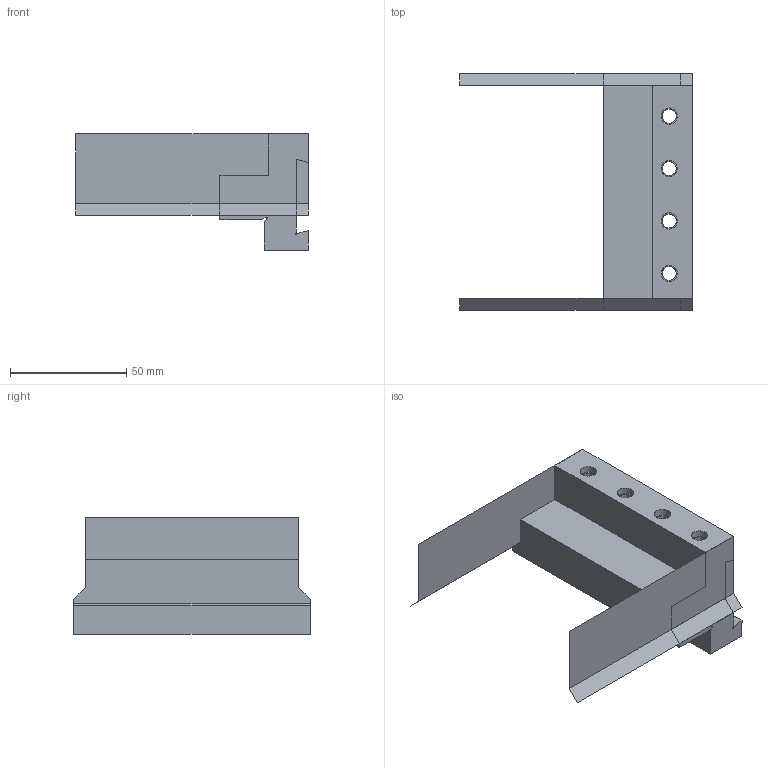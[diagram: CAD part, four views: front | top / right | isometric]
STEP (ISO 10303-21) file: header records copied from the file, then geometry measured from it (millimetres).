
FILE_DESCRIPTION(/* description */ (''),/* implementation_level */ '2;1');
FILE_NAME(/* name */ 'SMBBA0712-HAAS.stp',/* time_stamp */ '2020-10-14T10:45:59+09:00',/* author */ (''),/* organization */ (''),/* preprocessor_version */ 'ST-DEVELOPER v16',/* originating_system */ 'SIEMENS PLM Software NX 10.0',/* authorisation */ '');
FILE_SCHEMA (('AUTOMOTIVE_DESIGN { 1 0 10303 214 3 1 1 1 }'));
Length unit declared in the file: millimetre
Products named in the file (1): SMBBA0712-HAAS
Bounding box: 100 x 101.6 x 50 mm (x, y, z)
Volume: 99676.7 mm3; surface area: 31936.4 mm2
Topology: 1 solids, 3 shells, 38 faces, 98 edges, 68 vertices
Faces by surface type: plane 28, cylinder 10
Full cylindrical faces by diameter (mm): 6 x4, 7 x4
Entity records: 1172 total; most frequent: CARTESIAN_POINT 197, DIRECTION 188, ORIENTED_EDGE 168, EDGE_CURVE 90, LINE 70, VECTOR 70, VERTEX_POINT 68, AXIS2_PLACEMENT_3D 59
